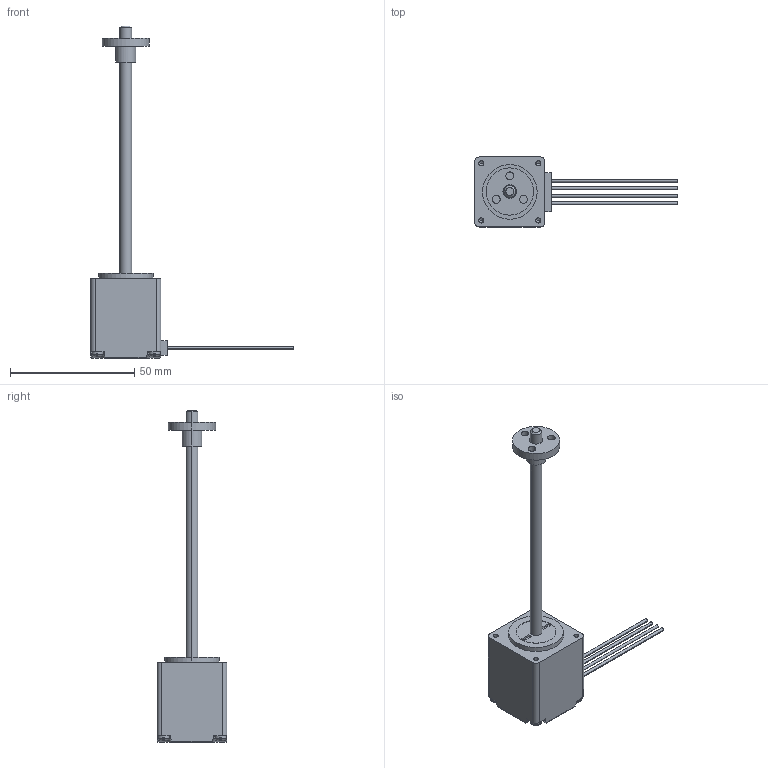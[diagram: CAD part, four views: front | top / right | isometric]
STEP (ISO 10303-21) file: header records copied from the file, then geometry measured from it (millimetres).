
FILE_DESCRIPTION (( 'STEP AP214' ), '1' );
FILE_NAME ('AMETEK-E28H47-2.1-4-12.step', '2019-06-02T11:22:21', ( '' ), ( '' ), 'SwSTEP 2.0', 'SolidWorks 2019', '' );
FILE_SCHEMA (( 'AUTOMOTIVE_DESIGN' ));
Length unit declared in the file: inch
Products named in the file (3): AMETEK-E28H47-2.1-4-12; AMETEK-E28H47-2.1-4-12_28000_external_linear_nut_28000 external linear nut; AMETEK-E28H47-2.1-4-12_28000_external_linear_None
Assembly tree (2 placements, depth 2):
  AMETEK-E28H47-2.1-4-12
    AMETEK-E28H47-2.1-4-12_28000_external_linear_None
    AMETEK-E28H47-2.1-4-12_28000_external_linear_nut_28000 external linear nut
Bounding box: 81.53 x 28.19 x 133.81 mm (x, y, z)
Volume: 29236.2 mm3; surface area: 8986.9 mm2
Topology: 2 solids, 2 shells, 199 faces, 512 edges, 331 vertices
Faces by surface type: plane 106, cylinder 66, cone 14, torus 13
Entity records: 7191 total; most frequent: CARTESIAN_POINT 1360, DIRECTION 1038, ORIENTED_EDGE 1008, EDGE_CURVE 504, AXIS2_PLACEMENT_3D 375, VERTEX_POINT 331, VECTOR 288, LINE 288
